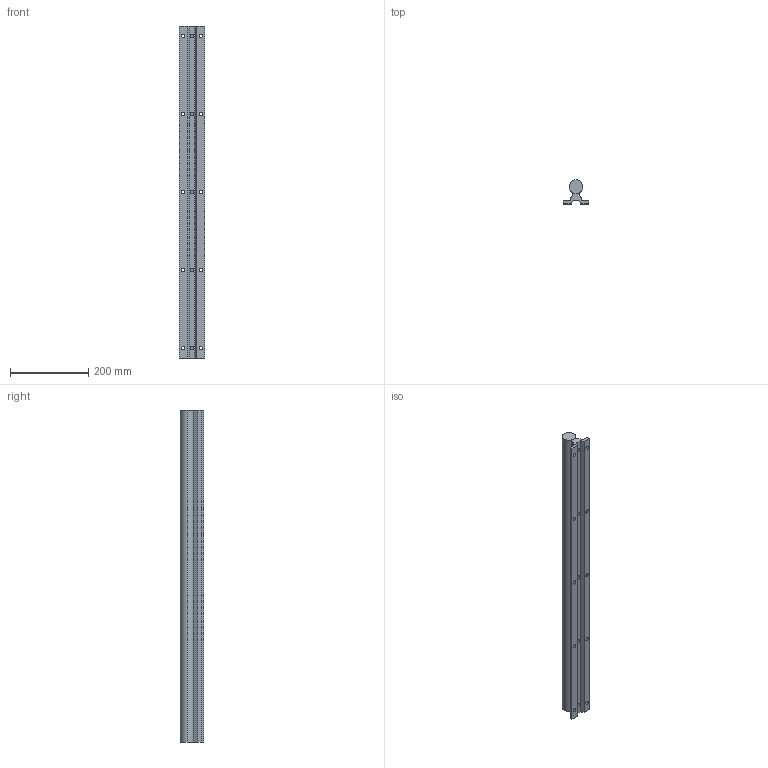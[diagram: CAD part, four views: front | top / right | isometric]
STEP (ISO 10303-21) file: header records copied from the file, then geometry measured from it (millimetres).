
FILE_DESCRIPTION (( 'STEP AP214' ), '1' );
FILE_NAME ('SBR35-850.STEP', '2025-09-17T14:42:14', ( '' ), ( '' ), 'SwSTEP 2.0', 'SolidWorks 2019', '' );
FILE_SCHEMA (( 'AUTOMOTIVE_DESIGN' ));
Length unit declared in the file: millimetre
Products named in the file (1): SBR35-850
Bounding box: 65 x 60.5 x 850 mm (x, y, z)
Volume: 1428207.9 mm3; surface area: 256294.5 mm2
Topology: 2 solids, 2 shells, 80 faces, 218 edges, 142 vertices
Faces by surface type: cylinder 54, plane 26
Entity records: 2963 total; most frequent: CARTESIAN_POINT 801, DIRECTION 448, ORIENTED_EDGE 436, EDGE_CURVE 218, AXIS2_PLACEMENT_3D 169, VERTEX_POINT 142, LINE 110, VECTOR 110
